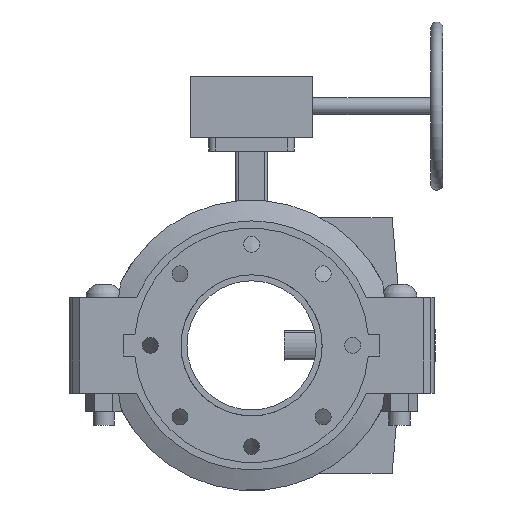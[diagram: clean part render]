
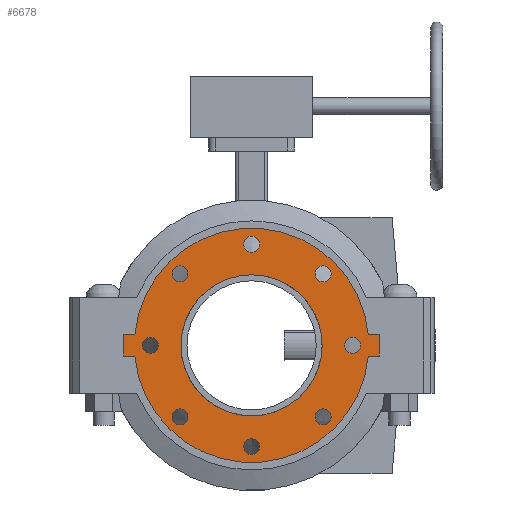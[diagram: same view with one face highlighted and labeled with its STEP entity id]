
A CAD part, front view. The second image highlights one B-rep face of the part: STEP entity #6678.
In plain terms, the highlighted planar face has unit normal (0, -1, 0) as drawn and (0, 0, -1) by its records, which use the part's own axes.
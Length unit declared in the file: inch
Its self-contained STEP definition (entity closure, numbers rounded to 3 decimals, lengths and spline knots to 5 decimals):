
#167=FACE_BOUND('',#863,.T.);
#168=FACE_BOUND('',#864,.T.);
#169=FACE_BOUND('',#865,.T.);
#170=FACE_BOUND('',#866,.T.);
#171=FACE_BOUND('',#867,.T.);
#172=FACE_BOUND('',#868,.T.);
#173=FACE_BOUND('',#869,.T.);
#174=FACE_BOUND('',#870,.T.);
#175=FACE_BOUND('',#871,.T.);
#259=PLANE('',#7281);
#492=FACE_OUTER_BOUND('',#862,.T.);
#862=EDGE_LOOP('',(#4310,#4311,#4312,#4313,#4314,#4315,#4316,#4317));
#863=EDGE_LOOP('',(#4318));
#864=EDGE_LOOP('',(#4319));
#865=EDGE_LOOP('',(#4320));
#866=EDGE_LOOP('',(#4321));
#867=EDGE_LOOP('',(#4322));
#868=EDGE_LOOP('',(#4323));
#869=EDGE_LOOP('',(#4324));
#870=EDGE_LOOP('',(#4325));
#871=EDGE_LOOP('',(#4326,#4327));
#1324=LINE('',#10164,#1814);
#1325=LINE('',#10166,#1815);
#1326=LINE('',#10168,#1816);
#1327=LINE('',#10172,#1817);
#1328=LINE('',#10174,#1818);
#1329=LINE('',#10175,#1819);
#1814=VECTOR('',#8107,0.3937);
#1815=VECTOR('',#8108,0.3937);
#1816=VECTOR('',#8109,0.3937);
#1817=VECTOR('',#8112,0.3937);
#1818=VECTOR('',#8113,0.3937);
#1819=VECTOR('',#8114,0.3937);
#2297=CIRCLE('',#7259,0.375);
#2299=CIRCLE('',#7262,0.375);
#2301=CIRCLE('',#7265,0.375);
#2303=CIRCLE('',#7268,0.375);
#2305=CIRCLE('',#7271,0.375);
#2307=CIRCLE('',#7274,0.375);
#2309=CIRCLE('',#7277,0.375);
#2311=CIRCLE('',#7280,0.375);
#2312=CIRCLE('',#7282,5.5);
#2313=CIRCLE('',#7283,5.5);
#2314=CIRCLE('',#7284,3.3125);
#2315=CIRCLE('',#7285,3.3125);
#2687=VERTEX_POINT('',#10114);
#2689=VERTEX_POINT('',#10120);
#2691=VERTEX_POINT('',#10126);
#2693=VERTEX_POINT('',#10132);
#2695=VERTEX_POINT('',#10138);
#2697=VERTEX_POINT('',#10144);
#2699=VERTEX_POINT('',#10150);
#2701=VERTEX_POINT('',#10156);
#2702=VERTEX_POINT('',#10160);
#2703=VERTEX_POINT('',#10161);
#2704=VERTEX_POINT('',#10163);
#2705=VERTEX_POINT('',#10165);
#2706=VERTEX_POINT('',#10167);
#2707=VERTEX_POINT('',#10169);
#2708=VERTEX_POINT('',#10171);
#2709=VERTEX_POINT('',#10173);
#2710=VERTEX_POINT('',#10176);
#2711=VERTEX_POINT('',#10177);
#3334=EDGE_CURVE('',#2687,#2687,#2297,.T.);
#3337=EDGE_CURVE('',#2689,#2689,#2299,.T.);
#3340=EDGE_CURVE('',#2691,#2691,#2301,.T.);
#3343=EDGE_CURVE('',#2693,#2693,#2303,.T.);
#3346=EDGE_CURVE('',#2695,#2695,#2305,.T.);
#3349=EDGE_CURVE('',#2697,#2697,#2307,.T.);
#3352=EDGE_CURVE('',#2699,#2699,#2309,.T.);
#3355=EDGE_CURVE('',#2701,#2701,#2311,.T.);
#3356=EDGE_CURVE('',#2702,#2703,#2312,.T.);
#3357=EDGE_CURVE('',#2703,#2704,#1324,.T.);
#3358=EDGE_CURVE('',#2704,#2705,#1325,.T.);
#3359=EDGE_CURVE('',#2705,#2706,#1326,.T.);
#3360=EDGE_CURVE('',#2706,#2707,#2313,.T.);
#3361=EDGE_CURVE('',#2707,#2708,#1327,.T.);
#3362=EDGE_CURVE('',#2708,#2709,#1328,.T.);
#3363=EDGE_CURVE('',#2709,#2702,#1329,.T.);
#3364=EDGE_CURVE('',#2710,#2711,#2314,.T.);
#3365=EDGE_CURVE('',#2711,#2710,#2315,.T.);
#4310=ORIENTED_EDGE('',*,*,#3356,.T.);
#4311=ORIENTED_EDGE('',*,*,#3357,.T.);
#4312=ORIENTED_EDGE('',*,*,#3358,.T.);
#4313=ORIENTED_EDGE('',*,*,#3359,.T.);
#4314=ORIENTED_EDGE('',*,*,#3360,.T.);
#4315=ORIENTED_EDGE('',*,*,#3361,.T.);
#4316=ORIENTED_EDGE('',*,*,#3362,.T.);
#4317=ORIENTED_EDGE('',*,*,#3363,.T.);
#4318=ORIENTED_EDGE('',*,*,#3334,.T.);
#4319=ORIENTED_EDGE('',*,*,#3337,.T.);
#4320=ORIENTED_EDGE('',*,*,#3340,.T.);
#4321=ORIENTED_EDGE('',*,*,#3343,.T.);
#4322=ORIENTED_EDGE('',*,*,#3346,.T.);
#4323=ORIENTED_EDGE('',*,*,#3349,.T.);
#4324=ORIENTED_EDGE('',*,*,#3352,.T.);
#4325=ORIENTED_EDGE('',*,*,#3355,.T.);
#4326=ORIENTED_EDGE('',*,*,#3364,.T.);
#4327=ORIENTED_EDGE('',*,*,#3365,.T.);
#6678=ADVANCED_FACE('',(#492,#167,#168,#169,#170,#171,#172,#173,#174,#175),
#259,.T.);
#7259=AXIS2_PLACEMENT_3D('',#10116,#8052,#8053);
#7262=AXIS2_PLACEMENT_3D('',#10122,#8059,#8060);
#7265=AXIS2_PLACEMENT_3D('',#10128,#8066,#8067);
#7268=AXIS2_PLACEMENT_3D('',#10134,#8073,#8074);
#7271=AXIS2_PLACEMENT_3D('',#10140,#8080,#8081);
#7274=AXIS2_PLACEMENT_3D('',#10146,#8087,#8088);
#7277=AXIS2_PLACEMENT_3D('',#10152,#8094,#8095);
#7280=AXIS2_PLACEMENT_3D('',#10158,#8101,#8102);
#7281=AXIS2_PLACEMENT_3D('',#10159,#8103,#8104);
#7282=AXIS2_PLACEMENT_3D('',#10162,#8105,#8106);
#7283=AXIS2_PLACEMENT_3D('',#10170,#8110,#8111);
#7284=AXIS2_PLACEMENT_3D('',#10178,#8115,#8116);
#7285=AXIS2_PLACEMENT_3D('',#10179,#8117,#8118);
#8052=DIRECTION('center_axis',(0.,0.,1.));
#8053=DIRECTION('ref_axis',(-0.707,0.707,0.));
#8059=DIRECTION('center_axis',(0.,0.,1.));
#8060=DIRECTION('ref_axis',(0.,1.,0.));
#8066=DIRECTION('center_axis',(0.,0.,1.));
#8067=DIRECTION('ref_axis',(0.707,0.707,0.));
#8073=DIRECTION('center_axis',(0.,0.,1.));
#8074=DIRECTION('ref_axis',(1.,0.,0.));
#8080=DIRECTION('center_axis',(0.,0.,1.));
#8081=DIRECTION('ref_axis',(0.707,-0.707,0.));
#8087=DIRECTION('center_axis',(0.,0.,1.));
#8088=DIRECTION('ref_axis',(0.,-1.,0.));
#8094=DIRECTION('center_axis',(0.,0.,1.));
#8095=DIRECTION('ref_axis',(-0.707,-0.707,0.));
#8101=DIRECTION('center_axis',(0.,0.,1.));
#8102=DIRECTION('ref_axis',(-1.,0.,0.));
#8103=DIRECTION('center_axis',(0.,0.,-1.));
#8104=DIRECTION('ref_axis',(-1.,0.,0.));
#8105=DIRECTION('center_axis',(0.,0.,-1.));
#8106=DIRECTION('ref_axis',(-1.,0.,0.));
#8107=DIRECTION('',(0.,1.,0.));
#8108=DIRECTION('',(1.,0.,0.));
#8109=DIRECTION('',(0.,-1.,0.));
#8110=DIRECTION('center_axis',(0.,0.,-1.));
#8111=DIRECTION('ref_axis',(-1.,0.,0.));
#8112=DIRECTION('',(0.,-1.,0.));
#8113=DIRECTION('',(-1.,0.,0.));
#8114=DIRECTION('',(0.,1.,0.));
#8115=DIRECTION('center_axis',(0.,0.,1.));
#8116=DIRECTION('ref_axis',(-1.,0.,0.));
#8117=DIRECTION('center_axis',(0.,0.,1.));
#8118=DIRECTION('ref_axis',(-1.,0.,0.));
#10114=CARTESIAN_POINT('',(-3.09359,3.09359,-0.5));
#10116=CARTESIAN_POINT('Origin',(-3.35876,3.35876,-0.5));
#10120=CARTESIAN_POINT('',(0.,4.375,-0.5));
#10122=CARTESIAN_POINT('Origin',(0.,4.75,-0.5));
#10126=CARTESIAN_POINT('',(3.09359,3.09359,-0.5));
#10128=CARTESIAN_POINT('Origin',(3.35876,3.35876,-0.5));
#10132=CARTESIAN_POINT('',(4.375,0.,-0.5));
#10134=CARTESIAN_POINT('Origin',(4.75,0.,-0.5));
#10138=CARTESIAN_POINT('',(3.09359,-3.09359,-0.5));
#10140=CARTESIAN_POINT('Origin',(3.35876,-3.35876,-0.5));
#10144=CARTESIAN_POINT('',(0.,-4.375,-0.5));
#10146=CARTESIAN_POINT('Origin',(0.,-4.75,-0.5));
#10150=CARTESIAN_POINT('',(-3.09359,-3.09359,-0.5));
#10152=CARTESIAN_POINT('Origin',(-3.35876,-3.35876,-0.5));
#10156=CARTESIAN_POINT('',(-4.375,0.,-0.5));
#10158=CARTESIAN_POINT('Origin',(-4.75,0.,-0.5));
#10159=CARTESIAN_POINT('Origin',(0.,0.,-0.5));
#10160=CARTESIAN_POINT('',(-0.5,-5.47723,-0.5));
#10161=CARTESIAN_POINT('',(-0.5,5.47723,-0.5));
#10162=CARTESIAN_POINT('Origin',(0.,0.,-0.5));
#10163=CARTESIAN_POINT('',(-0.5,6.,-0.5));
#10164=CARTESIAN_POINT('',(-0.5,-6.,-0.5));
#10165=CARTESIAN_POINT('',(0.5,6.,-0.5));
#10166=CARTESIAN_POINT('',(-0.5,6.,-0.5));
#10167=CARTESIAN_POINT('',(0.5,5.47723,-0.5));
#10168=CARTESIAN_POINT('',(0.5,6.,-0.5));
#10169=CARTESIAN_POINT('',(0.5,-5.47723,-0.5));
#10170=CARTESIAN_POINT('Origin',(0.,0.,-0.5));
#10171=CARTESIAN_POINT('',(0.5,-6.,-0.5));
#10172=CARTESIAN_POINT('',(0.5,6.,-0.5));
#10173=CARTESIAN_POINT('',(-0.5,-6.,-0.5));
#10174=CARTESIAN_POINT('',(0.5,-6.,-0.5));
#10175=CARTESIAN_POINT('',(-0.5,-6.,-0.5));
#10176=CARTESIAN_POINT('',(0.5,3.27455,-0.5));
#10177=CARTESIAN_POINT('',(3.3125,0.,-0.5));
#10178=CARTESIAN_POINT('Origin',(0.,0.,-0.5));
#10179=CARTESIAN_POINT('Origin',(0.,0.,-0.5));
